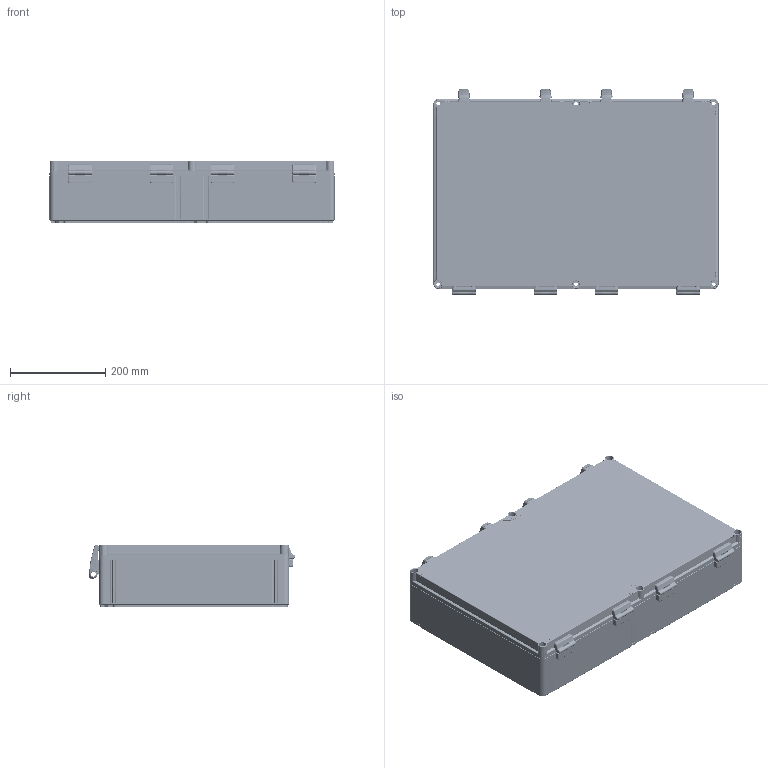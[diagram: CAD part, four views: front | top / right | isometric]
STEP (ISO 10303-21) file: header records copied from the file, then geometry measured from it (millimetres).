
FILE_DESCRIPTION((''),'2;1');
FILE_NAME('WPCP406013G_ASM','2005-11-23T',('mika_leppanen'),(''),'PRO/ENGINEER BY PARAMETRIC TECHNOLOGY CORPORATION, 2005110','PRO/ENGINEER BY PARAMETRIC TECHNOLOGY CORPORATION, 2005110','');
FILE_SCHEMA(('AUTOMOTIVE_DESIGN_CC2 { 1 2 10303 214 -1 1 5 2 }'));
Products named in the file (12): OPCP406010B_AF1; OPCG406003L_AF0; SARANA_KOTELO; SARANA_KANSI; CUBO_O_SARANATAPPI; CUBO_O_HINGE_ASM; PMR2426_KIINNITYSALUSTA; PMR2427_NIVEL; PMR2425_YL_KIINNITYS; PMR2428_ALAKIINNITYS; UUSISALPA_ASM; WPCP406013G_ASM
Assembly tree (17 placements, depth 3):
  WPCP406013G_ASM
    OPCP406010B_AF1
    OPCG406003L_AF0
    CUBO_O_HINGE_ASM  x4
      SARANA_KOTELO
      SARANA_KANSI
      CUBO_O_SARANATAPPI
    UUSISALPA_ASM  x4
      PMR2426_KIINNITYSALUSTA
      PMR2427_NIVEL
      PMR2425_YL_KIINNITYS
      PMR2428_ALAKIINNITYS
Bounding box: 600 x 433.15 x 132 mm (x, y, z)
Volume: 3234299.2 mm3; surface area: 1776961.7 mm2
Topology: 30 solids, 30 shells, 10355 faces, 25026 edges, 14998 vertices
Faces by surface type: bspline 3120, plane 2756, cylinder 2409, cone 1128, torus 740, sphere 202
Entity records: 259689 total; most frequent: CARTESIAN_POINT 88015, ORIENTED_EDGE 28156, DIRECTION 25339, PRESENTATION_STYLE_ASSIGNMENT 14087, STYLED_ITEM 14087, CURVE_STYLE 14078, EDGE_CURVE 14078, AXIS2_PLACEMENT_3D 9393
